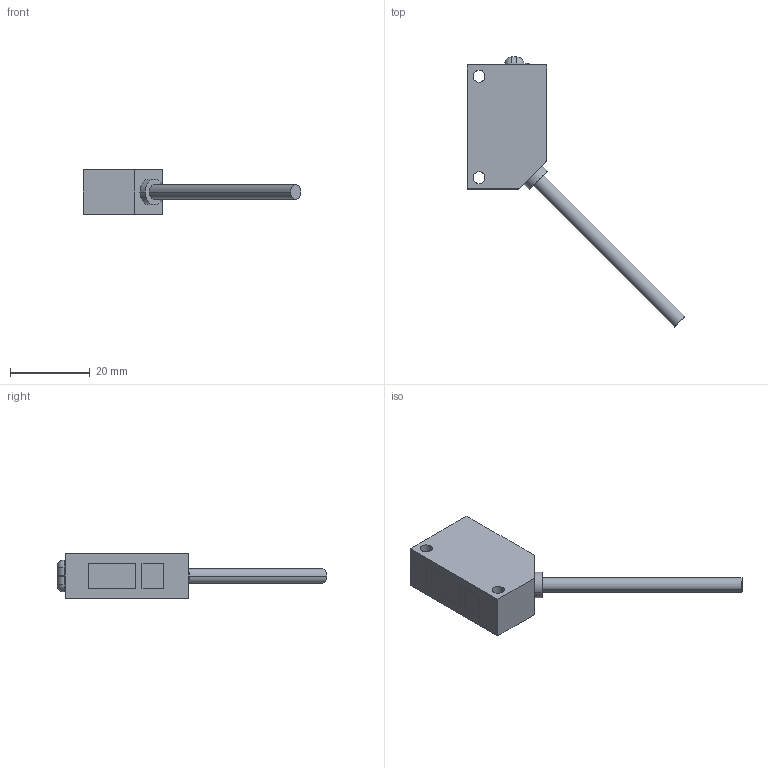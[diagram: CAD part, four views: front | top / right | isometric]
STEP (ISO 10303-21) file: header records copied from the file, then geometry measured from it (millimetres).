
FILE_DESCRIPTION (( 'STEP AP203' ), '1' );
FILE_NAME ('cx-441.STEP', '2008-08-22T08:32:04', ( ' ' ), ( ' ' ), 'SwSTEP 2.0', 'SolidWorks 2007', '' );
FILE_SCHEMA (( 'CONFIG_CONTROL_DESIGN' ));
Length unit declared in the file: millimetre
Products named in the file (1): cx-441
Bounding box: 54.51 x 67.51 x 11.2 mm (x, y, z)
Volume: 7169.8 mm3; surface area: 3179 mm2
Topology: 3 solids, 3 shells, 110 faces, 281 edges, 180 vertices
Faces by surface type: plane 69, cylinder 37, sphere 4
Entity records: 3378 total; most frequent: DIRECTION 587, CARTESIAN_POINT 568, ORIENTED_EDGE 554, EDGE_CURVE 277, AXIS2_PLACEMENT_3D 199, VECTOR 189, LINE 189, VERTEX_POINT 180
